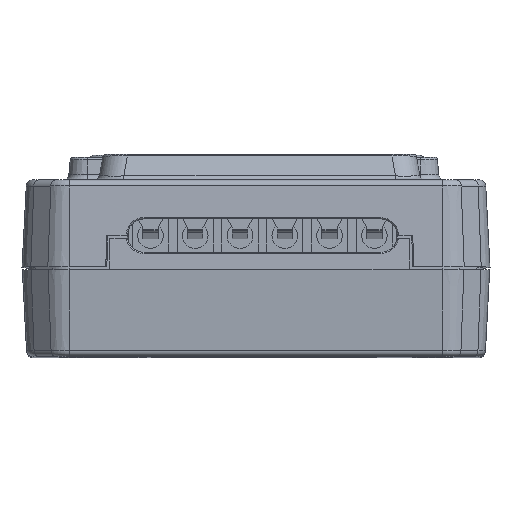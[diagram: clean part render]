
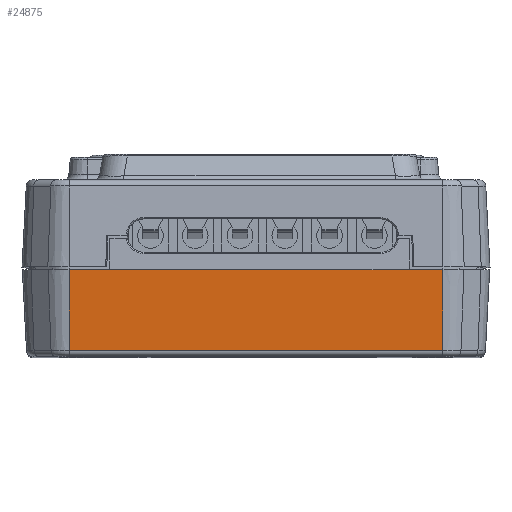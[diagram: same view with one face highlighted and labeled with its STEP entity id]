
A CAD part, top view. The second image highlights one B-rep face of the part: STEP entity #24875.
In plain terms, the highlighted planar face has unit normal (0, -0.052, 0.999).
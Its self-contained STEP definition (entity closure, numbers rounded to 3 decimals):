
#2703=DIRECTION('',(-1.,0.,0.));
#2704=VECTOR('',#2703,29.196);
#2705=CARTESIAN_POINT('',(14.598,-0.026,
24.499));
#2706=LINE('',#2705,#2704);
#2830=DIRECTION('',(0.,0.999,0.052));
#2831=VECTOR('',#2830,6.335);
#2832=CARTESIAN_POINT('',(-14.598,-0.026,
24.499));
#2833=LINE('',#2832,#2831);
#2842=DIRECTION('',(0.,-0.999,-0.052));
#2843=VECTOR('',#2842,6.335);
#2844=CARTESIAN_POINT('',(14.598,6.3,24.83));
#2845=LINE('',#2844,#2843);
#2926=DIRECTION('',(1.,0.,0.));
#2927=VECTOR('',#2926,2.478);
#2928=CARTESIAN_POINT('',(12.12,6.3,24.83));
#2929=LINE('',#2928,#2927);
#2930=DIRECTION('',(1.,0.,0.));
#2931=VECTOR('',#2930,23.67);
#2932=CARTESIAN_POINT('',(-11.55,6.3,24.83));
#2933=LINE('',#2932,#2931);
#2934=DIRECTION('',(1.,0.,0.));
#2935=VECTOR('',#2934,3.048);
#2936=CARTESIAN_POINT('',(-14.598,6.3,24.83));
#2937=LINE('',#2936,#2935);
#16887=CARTESIAN_POINT('',(14.598,-0.026,
24.499));
#16888=VERTEX_POINT('',#16887);
#16889=CARTESIAN_POINT('',(-14.598,-0.026,
24.499));
#16890=VERTEX_POINT('',#16889);
#16921=CARTESIAN_POINT('',(14.598,6.3,24.83));
#16922=VERTEX_POINT('',#16921);
#16923=CARTESIAN_POINT('',(-14.598,6.3,24.83));
#16924=VERTEX_POINT('',#16923);
#16925=CARTESIAN_POINT('',(-11.55,6.3,24.83));
#16926=VERTEX_POINT('',#16925);
#16927=CARTESIAN_POINT('',(12.12,6.3,24.83));
#16928=VERTEX_POINT('',#16927);
#24858=CARTESIAN_POINT('',(-16.547,0.,24.5));
#24859=DIRECTION('',(0.,-0.052,0.999));
#24860=DIRECTION('',(-1.,0.,0.));
#24861=AXIS2_PLACEMENT_3D('',#24858,#24859,#24860);
#24862=PLANE('',#24861);
#24864=ORIENTED_EDGE('',*,*,#24863,.T.);
#24865=ORIENTED_EDGE('',*,*,#24629,.T.);
#24866=ORIENTED_EDGE('',*,*,#24849,.T.);
#24868=ORIENTED_EDGE('',*,*,#24867,.T.);
#24870=ORIENTED_EDGE('',*,*,#24869,.T.);
#24872=ORIENTED_EDGE('',*,*,#24871,.T.);
#24873=EDGE_LOOP('',(#24864,#24865,#24866,#24868,#24870,#24872));
#24874=FACE_OUTER_BOUND('',#24873,.F.);
#24629=EDGE_CURVE('',#16888,#16890,#2706,.T.);
#24849=EDGE_CURVE('',#16890,#16924,#2833,.T.);
#24863=EDGE_CURVE('',#16922,#16888,#2845,.T.);
#24867=EDGE_CURVE('',#16924,#16926,#2937,.T.);
#24869=EDGE_CURVE('',#16926,#16928,#2933,.T.);
#24871=EDGE_CURVE('',#16928,#16922,#2929,.T.);
#24875=ADVANCED_FACE('',(#24874),#24862,.T.);
